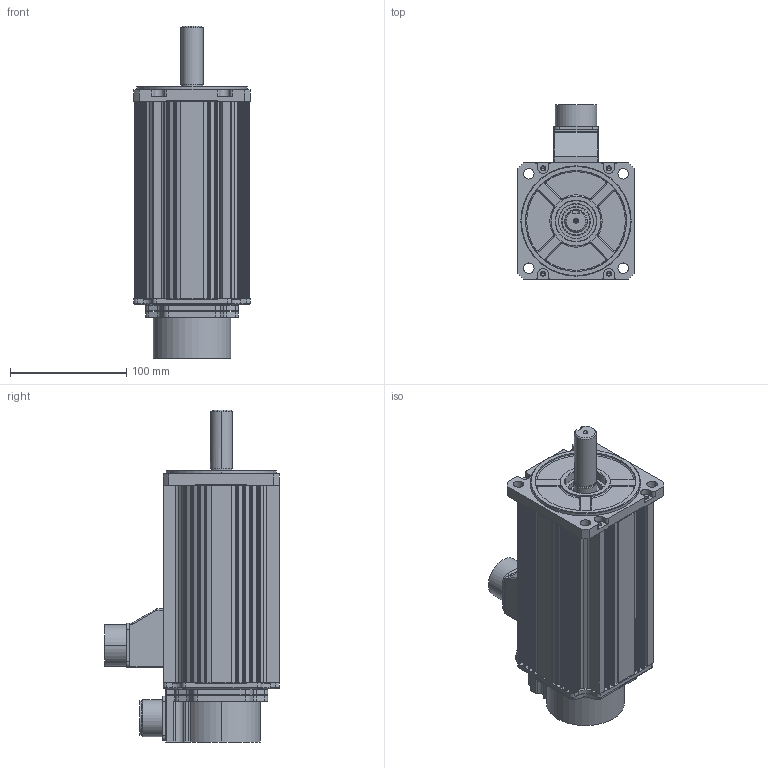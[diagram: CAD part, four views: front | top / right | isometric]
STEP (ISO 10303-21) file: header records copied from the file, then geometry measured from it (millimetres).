
FILE_DESCRIPTION (( 'STEP AP214' ), '1' );
FILE_NAME ('KANS-20B¡à1B2.STEP', '2026-09-12T00:45:28', ( '' ), ( '' ), 'SwSTEP 2.0', 'SolidWorks 2023', '' );
FILE_SCHEMA (( 'AUTOMOTIVE_DESIGN' ));
Length unit declared in the file: millimetre
Products named in the file (10): 10060024(ENCODER COVER ADAPTOR,□100,□120); □100 BRACKET_BR; 10050579 CONNECTOR BOX_MS20; Ø19-KEY6X42; MS3102A 20_표준; □100-170mm; KANS-20B□1B2; 1006002202 ENCODER COVER; □100 FLANGE; MS3102A 20-29P
Assembly tree (9 placements, depth 2):
  KANS-20B□1B2
    □100-170mm
    □100 FLANGE
    □100 BRACKET_BR
    10060024(ENCODER COVER ADAPTOR,□100,□120)
    1006002202 ENCODER COVER
    MS3102A 20-29P
    10050579 CONNECTOR BOX_MS20
    MS3102A 20_표준
    Ø19-KEY6X42
Bounding box: 100 x 150.55 x 286 mm (x, y, z)
Volume: 506912.8 mm3; surface area: 292690.5 mm2
Topology: 9 solids, 9 shells, 1787 faces, 4924 edges, 3182 vertices
Faces by surface type: plane 794, cylinder 788, torus 74, cone 64, bspline 35, sphere 32
Entity records: 58629 total; most frequent: CARTESIAN_POINT 11693, DIRECTION 10107, ORIENTED_EDGE 9728, EDGE_CURVE 4864, AXIS2_PLACEMENT_3D 3614, VERTEX_POINT 3174, VECTOR 2879, LINE 2879
